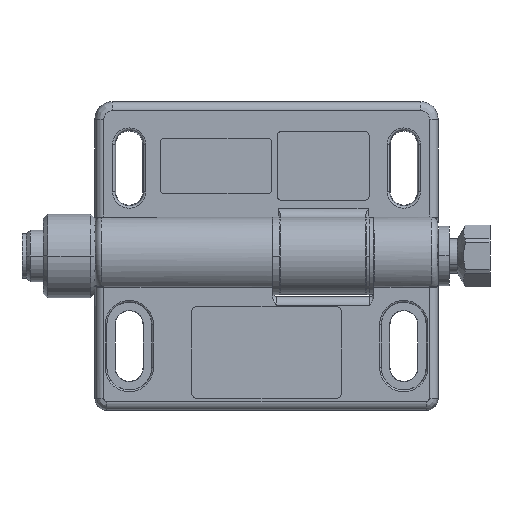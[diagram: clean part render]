
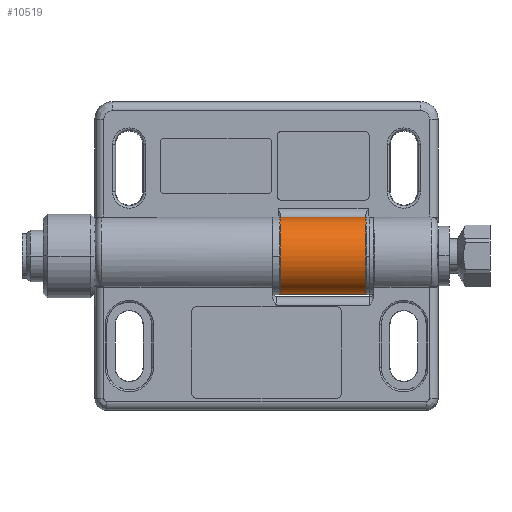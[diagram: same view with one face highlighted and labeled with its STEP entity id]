
A CAD part, front view. The second image highlights one B-rep face of the part: STEP entity #10519.
In plain terms, the highlighted cylindrical face has radius 9 mm (diameter 18 mm), a partial arc.
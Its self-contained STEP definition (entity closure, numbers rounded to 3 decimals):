
#8673=CARTESIAN_POINT('',(-16.826,0.,9.));
#8674=CARTESIAN_POINT('',(-16.827,-0.346,9.));
#8675=CARTESIAN_POINT('',(-16.829,-1.066,
8.96));
#8676=CARTESIAN_POINT('',(-16.832,-2.211,
8.752));
#8677=CARTESIAN_POINT('',(-16.835,-3.395,
8.368));
#8678=CARTESIAN_POINT('',(-16.838,-4.582,
7.786));
#8679=CARTESIAN_POINT('',(-16.841,-5.725,
6.993));
#8680=CARTESIAN_POINT('',(-16.844,-6.769,
5.991));
#8681=CARTESIAN_POINT('',(-16.846,-7.662,
4.801));
#8682=CARTESIAN_POINT('',(-16.848,-8.354,
3.46));
#8683=CARTESIAN_POINT('',(-16.849,-8.812,
2.023));
#8684=CARTESIAN_POINT('',(-16.85,-9.023,
0.55));
#8685=CARTESIAN_POINT('',(-16.85,-8.993,
-0.897));
#8686=CARTESIAN_POINT('',(-16.849,-8.745,
-2.265));
#8687=CARTESIAN_POINT('',(-16.848,-8.318,
-3.516));
#8688=CARTESIAN_POINT('',(-16.847,-7.846,
-4.44));
#8689=CARTESIAN_POINT('',(-16.846,-7.421,
-5.103));
#8690=CARTESIAN_POINT('',(-16.845,-7.082,
-5.563));
#8691=CARTESIAN_POINT('',(-16.844,-6.788,
-5.914));
#8692=CARTESIAN_POINT('',(-16.843,-6.547,
-6.177));
#8693=CARTESIAN_POINT('',(-16.843,-6.365,
-6.365));
#8694=CARTESIAN_POINT('',(-16.842,-6.177,
-6.547));
#8695=CARTESIAN_POINT('',(-16.842,-5.914,
-6.788));
#8696=CARTESIAN_POINT('',(-16.841,-5.563,
-7.082));
#8697=CARTESIAN_POINT('',(-16.84,-5.103,
-7.421));
#8698=CARTESIAN_POINT('',(-16.838,-4.44,
-7.846));
#8699=CARTESIAN_POINT('',(-16.835,-3.516,
-8.318));
#8700=CARTESIAN_POINT('',(-16.832,-2.265,
-8.745));
#8701=CARTESIAN_POINT('',(-16.829,-0.897,
-8.993));
#8702=CARTESIAN_POINT('',(-16.825,0.55,
-9.023));
#8703=CARTESIAN_POINT('',(-16.821,2.023,
-8.812));
#8704=CARTESIAN_POINT('',(-16.817,3.46,
-8.354));
#8705=CARTESIAN_POINT('',(-16.814,4.801,
-7.662));
#8706=CARTESIAN_POINT('',(-16.81,5.991,
-6.769));
#8707=CARTESIAN_POINT('',(-16.808,6.993,
-5.725));
#8708=CARTESIAN_POINT('',(-16.806,7.786,
-4.582));
#8709=CARTESIAN_POINT('',(-16.804,8.368,
-3.395));
#8710=CARTESIAN_POINT('',(-16.803,8.752,
-2.211));
#8711=CARTESIAN_POINT('',(-16.803,8.96,
-1.066));
#8712=CARTESIAN_POINT('',(-16.803,9.,-0.346));
#8713=CARTESIAN_POINT('',(-16.803,9.,0.));
#9245=CARTESIAN_POINT('',(-36.774,0.,9.));
#9246=CARTESIAN_POINT('',(-36.773,-0.346,9.));
#9247=CARTESIAN_POINT('',(-36.771,-1.066,
8.96));
#9248=CARTESIAN_POINT('',(-36.768,-2.211,
8.752));
#9249=CARTESIAN_POINT('',(-36.765,-3.395,
8.368));
#9250=CARTESIAN_POINT('',(-36.762,-4.582,
7.786));
#9251=CARTESIAN_POINT('',(-36.759,-5.725,
6.993));
#9252=CARTESIAN_POINT('',(-36.756,-6.769,
5.991));
#9253=CARTESIAN_POINT('',(-36.754,-7.662,
4.801));
#9254=CARTESIAN_POINT('',(-36.752,-8.354,
3.46));
#9255=CARTESIAN_POINT('',(-36.751,-8.812,
2.023));
#9256=CARTESIAN_POINT('',(-36.75,-9.023,
0.55));
#9257=CARTESIAN_POINT('',(-36.75,-8.993,
-0.897));
#9258=CARTESIAN_POINT('',(-36.751,-8.745,
-2.265));
#9259=CARTESIAN_POINT('',(-36.752,-8.318,
-3.516));
#9260=CARTESIAN_POINT('',(-36.753,-7.846,
-4.44));
#9261=CARTESIAN_POINT('',(-36.754,-7.421,
-5.103));
#9262=CARTESIAN_POINT('',(-36.755,-7.082,
-5.563));
#9263=CARTESIAN_POINT('',(-36.756,-6.788,
-5.914));
#9264=CARTESIAN_POINT('',(-36.757,-6.547,
-6.177));
#9265=CARTESIAN_POINT('',(-36.757,-6.365,
-6.365));
#9266=CARTESIAN_POINT('',(-36.758,-6.177,
-6.547));
#9267=CARTESIAN_POINT('',(-36.758,-5.914,
-6.788));
#9268=CARTESIAN_POINT('',(-36.759,-5.563,
-7.082));
#9269=CARTESIAN_POINT('',(-36.76,-5.103,
-7.421));
#9270=CARTESIAN_POINT('',(-36.762,-4.44,
-7.846));
#9271=CARTESIAN_POINT('',(-36.765,-3.516,
-8.318));
#9272=CARTESIAN_POINT('',(-36.768,-2.265,
-8.745));
#9273=CARTESIAN_POINT('',(-36.771,-0.897,
-8.993));
#9274=CARTESIAN_POINT('',(-36.775,0.55,
-9.023));
#9275=CARTESIAN_POINT('',(-36.779,2.023,
-8.812));
#9276=CARTESIAN_POINT('',(-36.783,3.46,
-8.354));
#9277=CARTESIAN_POINT('',(-36.786,4.801,
-7.662));
#9278=CARTESIAN_POINT('',(-36.79,5.991,
-6.769));
#9279=CARTESIAN_POINT('',(-36.792,6.993,
-5.725));
#9280=CARTESIAN_POINT('',(-36.794,7.786,
-4.582));
#9281=CARTESIAN_POINT('',(-36.796,8.368,
-3.395));
#9282=CARTESIAN_POINT('',(-36.797,8.752,
-2.211));
#9283=CARTESIAN_POINT('',(-36.797,8.96,
-1.066));
#9284=CARTESIAN_POINT('',(-36.797,9.,-0.346));
#9285=CARTESIAN_POINT('',(-36.797,9.,0.));
#9456=DIRECTION('',(1.,0.,0.));
#9457=VECTOR('',#9456,19.948);
#9458=CARTESIAN_POINT('',(-36.774,0.,9.));
#9459=LINE('',#9458,#9457);
#9460=DIRECTION('',(-1.,0.,0.));
#9461=VECTOR('',#9460,19.995);
#9462=CARTESIAN_POINT('',(-16.803,9.,0.));
#9463=LINE('',#9462,#9461);
#9748=CARTESIAN_POINT('',(-16.803,9.,0.));
#9749=VERTEX_POINT('',#9748);
#9750=VERTEX_POINT('',#8673);
#9798=CARTESIAN_POINT('',(-36.797,9.,0.));
#9799=VERTEX_POINT('',#9798);
#9800=VERTEX_POINT('',#9245);
#10507=CARTESIAN_POINT('',(-37.197,0.,0.));
#10508=DIRECTION('',(1.,0.,0.));
#10509=DIRECTION('',(0.,-1.,0.));
#10510=AXIS2_PLACEMENT_3D('',#10507,#10508,#10509);
#10511=CYLINDRICAL_SURFACE('',#10510,9.);
#10512=ORIENTED_EDGE('',*,*,#10449,.F.);
#10513=ORIENTED_EDGE('',*,*,#10501,.T.);
#10514=ORIENTED_EDGE('',*,*,#9976,.T.);
#10516=ORIENTED_EDGE('',*,*,#10515,.T.);
#10517=EDGE_LOOP('',(#10512,#10513,#10514,#10516));
#10518=FACE_OUTER_BOUND('',#10517,.F.);
#8714=B_SPLINE_CURVE_WITH_KNOTS('',3,(#8673,#8674,#8675,#8676,#8677,#8678,#8679,
#8680,#8681,#8682,#8683,#8684,#8685,#8686,#8687,#8688,#8689,#8690,#8691,#8692,
#8693,#8694,#8695,#8696,#8697,#8698,#8699,#8700,#8701,#8702,#8703,#8704,#8705,
#8706,#8707,#8708,#8709,#8710,#8711,#8712,#8713),.UNSPECIFIED.,.F.,.F.,(4,1,1,1,
1,1,1,1,1,1,1,1,1,1,1,1,1,1,1,1,1,1,1,1,1,1,1,1,1,1,1,1,1,1,1,1,1,1,4),(0.,
0.031,0.063,0.094,0.125,0.156,0.188,0.219,0.25,0.281,
0.313,0.344,0.375,0.406,0.438,0.453,0.469,0.484,
0.492,0.5,0.508,0.516,0.531,0.547,0.563,
0.594,0.625,0.656,0.688,0.719,0.75,0.781,0.813,
0.844,0.875,0.906,0.938,0.969,1.),.UNSPECIFIED.);
#9286=B_SPLINE_CURVE_WITH_KNOTS('',3,(#9245,#9246,#9247,#9248,#9249,#9250,#9251,
#9252,#9253,#9254,#9255,#9256,#9257,#9258,#9259,#9260,#9261,#9262,#9263,#9264,
#9265,#9266,#9267,#9268,#9269,#9270,#9271,#9272,#9273,#9274,#9275,#9276,#9277,
#9278,#9279,#9280,#9281,#9282,#9283,#9284,#9285),.UNSPECIFIED.,.F.,.F.,(4,1,1,1,
1,1,1,1,1,1,1,1,1,1,1,1,1,1,1,1,1,1,1,1,1,1,1,1,1,1,1,1,1,1,1,1,1,1,4),(0.,
0.031,0.063,0.094,0.125,0.156,0.188,0.219,0.25,0.281,
0.313,0.344,0.375,0.406,0.438,0.453,0.469,0.484,
0.492,0.5,0.508,0.516,0.531,0.547,0.563,
0.594,0.625,0.656,0.688,0.719,0.75,0.781,0.813,
0.844,0.875,0.906,0.938,0.969,1.),.UNSPECIFIED.);
#9976=EDGE_CURVE('',#9750,#9749,#8714,.T.);
#10449=EDGE_CURVE('',#9800,#9799,#9286,.T.);
#10501=EDGE_CURVE('',#9800,#9750,#9459,.T.);
#10515=EDGE_CURVE('',#9749,#9799,#9463,.T.);
#10519=ADVANCED_FACE('',(#10518),#10511,.T.);
